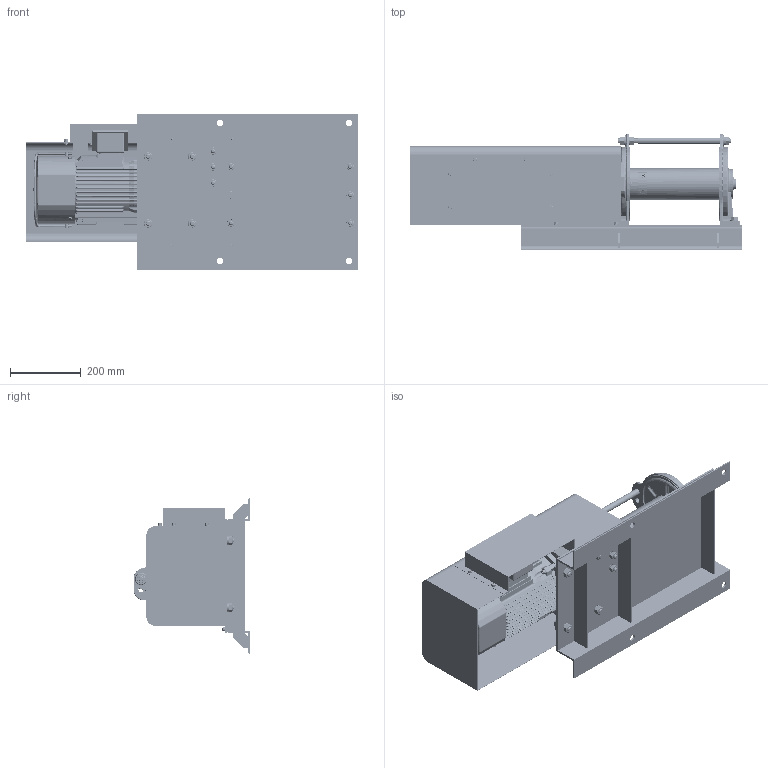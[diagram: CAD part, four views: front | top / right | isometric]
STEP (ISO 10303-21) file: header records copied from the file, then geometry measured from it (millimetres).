
FILE_DESCRIPTION( (''), '2;1');
FILE_NAME ('GLF-1400.stp','2023-08-03T10:17:25',(''),(''),'spGate 19.8.2 (****-****-****-****)','','');
FILE_SCHEMA (('AUTOMOTIVE_DESIGN'));
Length unit declared in the file: millimetre
Products named in the file (2): Assembly; GLF-1400-prt0
Assembly tree (1 placements, depth 2):
  Assembly
    GLF-1400-prt0
Bounding box: 940.5 x 331 x 440 mm (x, y, z)
Volume: 20505040 mm3; surface area: 3328132.6 mm2
Topology: 1 solids, 1 shells, 5067 faces, 13188 edges, 8033 vertices
Faces by surface type: bspline 1868, plane 1612, cylinder 1485, sphere 102
Entity records: 396613 total; most frequent: CARTESIAN_POINT 189018, ORIENTED_EDGE 25716, DIRECTION 18115, COLOUR_RGB 17926, PRESENTATION_STYLE_ASSIGNMENT 17926, STYLED_ITEM 17926, EDGE_CURVE 12858, DRAUGHTING_PRE_DEFINED_CURVE_FONT 12858
